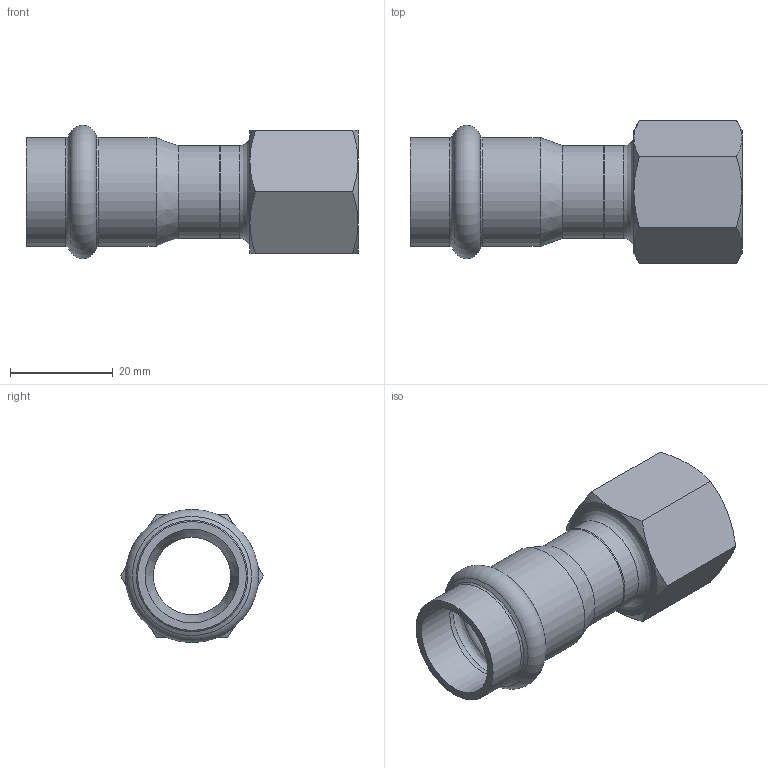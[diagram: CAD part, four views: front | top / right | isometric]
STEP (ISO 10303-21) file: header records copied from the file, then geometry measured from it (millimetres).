
FILE_DESCRIPTION((''),'2;1');
FILE_NAME('G:\Nirosan-Schmiedefeld\Technics\CAD\001 Serie 9.000\018\69270G1812H(2).stp','2018-08-28T08:53:04',('herberg'),(''),'Autodesk Inventor 2009','Autodesk Inventor 2009','');
FILE_SCHEMA(('AUTOMOTIVE_DESIGN { 1 0 10303 214 1 1 1 1 }'));
Length unit declared in the file: millimetre
Products named in the file (3): 69270G1812H(2); 69HM18P(1); IG1812(1)
Assembly tree (2 placements, depth 2):
  69270G1812H(2)
    69HM18P(1)
    IG1812(1)
Bounding box: 64.5 x 27.71 x 25.89 mm (x, y, z)
Volume: 9161 mm3; surface area: 9136.8 mm2
Topology: 2 solids, 2 shells, 45 faces, 90 edges, 51 vertices
Faces by surface type: cone 17, plane 11, bspline 7, cylinder 7, torus 3
Full cylindrical faces by diameter (mm): 15 x1, 18 x2, 18.15 x2, 21.15 x2
Entity records: 1320 total; most frequent: CARTESIAN_POINT 465, DIRECTION 168, ORIENTED_EDGE 136, AXIS2_PLACEMENT_3D 81, EDGE_LOOP 72, EDGE_CURVE 68, VERTEX_POINT 50, FACE_OUTER_BOUND 45
